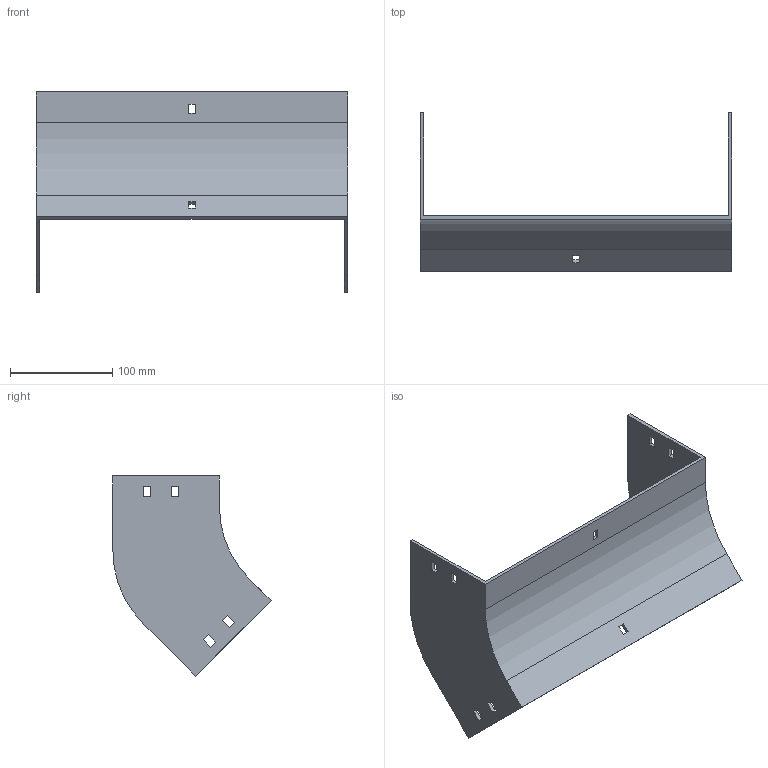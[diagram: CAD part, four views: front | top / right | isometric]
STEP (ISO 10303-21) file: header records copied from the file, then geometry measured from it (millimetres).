
FILE_DESCRIPTION (( 'STEP AP214' ), '1' );
FILE_NAME ('34F1D300.step', '2025-02-21T12:50:25', ( '' ), ( '' ), 'SwSTEP 2.0', 'SolidWorks 2023', '' );
FILE_SCHEMA (( 'AUTOMOTIVE_DESIGN' ));
Length unit declared in the file: millimetre
Products named in the file (1): 34F1D300
Bounding box: 304 x 154.5 x 195.46 mm (x, y, z)
Volume: 278421.8 mm3; surface area: 165365.4 mm2
Topology: 1 solids, 1 shells, 58 faces, 168 edges, 112 vertices
Faces by surface type: plane 54, cylinder 4
Entity records: 1943 total; most frequent: CARTESIAN_POINT 339, ORIENTED_EDGE 336, DIRECTION 294, EDGE_CURVE 168, VECTOR 160, LINE 160, VERTEX_POINT 112, EDGE_LOOP 78
